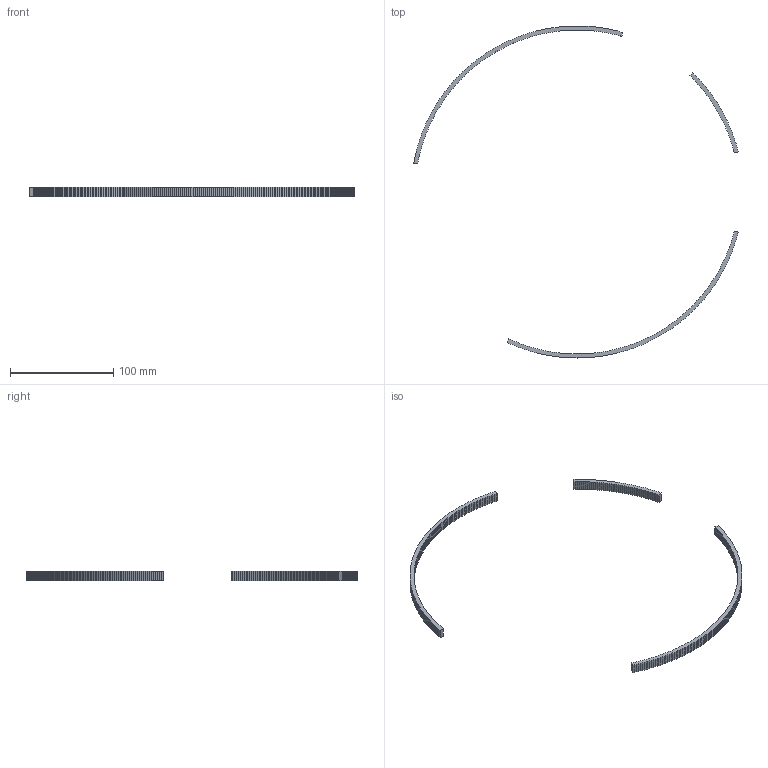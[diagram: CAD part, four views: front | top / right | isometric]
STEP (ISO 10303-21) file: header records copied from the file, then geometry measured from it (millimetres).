
FILE_DESCRIPTION(('Open CASCADE Model'),'2;1');
FILE_NAME('Open CASCADE Shape Model','2026-10-04T01:02:26',('Author'),( 'Open CASCADE'),'Open CASCADE STEP processor 8.0','Open CASCADE 8.0' ,'Unknown');
FILE_SCHEMA(('AUTOMOTIVE_DESIGN { 1 0 10303 214 1 1 1 1 }'));
Length unit declared in the file: millimetre
Products named in the file (4): Open CASCADE STEP translator 8.0 69; Open CASCADE STEP translator 8.0 69.1; Open CASCADE STEP translator 8.0 69.2; Open CASCADE STEP translator 8.0 69.3
Assembly tree (3 placements, depth 2):
  Open CASCADE STEP translator 8.0 69
    Open CASCADE STEP translator 8.0 69.1
    Open CASCADE STEP translator 8.0 69.2
    Open CASCADE STEP translator 8.0 69.3
Bounding box: 314.77 x 322 x 9 mm (x, y, z)
Volume: 22877.1 mm3; surface area: 16738.6 mm2
Topology: 3 solids, 3 shells, 656 faces, 1950 edges, 1300 vertices
Faces by surface type: plane 656
Entity records: 45600 total; most frequent: CARTESIAN_POINT 9134, DIRECTION 5846, LINE 4526, VECTOR 4526, ORIENTED_EDGE 3900, PCURVE 3900, DEFINITIONAL_REPRESENTATION 3900, EDGE_CURVE 1950
